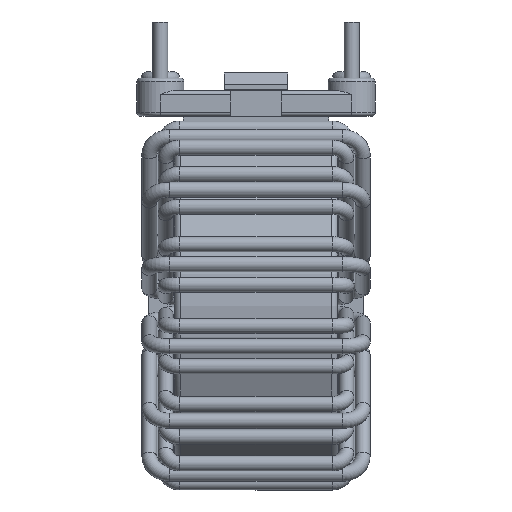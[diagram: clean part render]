
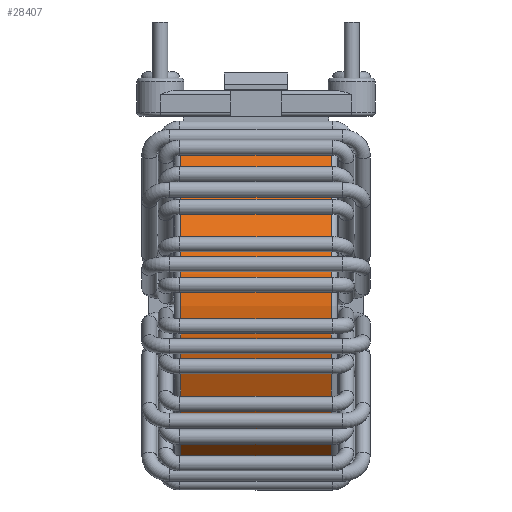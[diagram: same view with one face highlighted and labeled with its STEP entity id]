
A CAD part, left-side view. The second image highlights one B-rep face of the part: STEP entity #28407.
In plain terms, the highlighted cylindrical face has radius 14.2 mm (diameter 28.4 mm), a full revolution.
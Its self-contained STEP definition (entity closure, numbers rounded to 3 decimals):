
#1059=FACE_BOUND('',#8758,.T.);
#1060=FACE_BOUND('',#8759,.T.);
#3338=LINE('',#48750,#5333);
#3345=LINE('',#48767,#5340);
#3353=LINE('',#48785,#5348);
#3360=LINE('',#48800,#5355);
#3371=LINE('',#48849,#5366);
#5333=VECTOR('',#35758,10.);
#5340=VECTOR('',#35773,10.);
#5348=VECTOR('',#35789,10.);
#5355=VECTOR('',#35804,10.);
#5366=VECTOR('',#35877,14.2);
#6208=CYLINDRICAL_SURFACE('',#30569,14.2);
#7264=FACE_OUTER_BOUND('',#8757,.T.);
#8757=EDGE_LOOP('',(#23309,#23310,#23311,#23312,#23313));
#8758=EDGE_LOOP('',(#23314,#23315,#23316,#23317));
#8759=EDGE_LOOP('',(#23318,#23319,#23320,#23321));
#10202=CIRCLE('',#30552,14.2);
#10203=CIRCLE('',#30554,14.2);
#10204=CIRCLE('',#30556,14.2);
#10205=CIRCLE('',#30558,14.2);
#10210=CIRCLE('',#30567,14.2);
#10212=CIRCLE('',#30570,14.2);
#10213=CIRCLE('',#30571,14.2);
#12484=VERTEX_POINT('',#48743);
#12487=VERTEX_POINT('',#48748);
#12490=VERTEX_POINT('',#48760);
#12493=VERTEX_POINT('',#48765);
#12496=VERTEX_POINT('',#48778);
#12499=VERTEX_POINT('',#48783);
#12502=VERTEX_POINT('',#48796);
#12503=VERTEX_POINT('',#48798);
#12508=VERTEX_POINT('',#48842);
#12509=VERTEX_POINT('',#48846);
#12510=VERTEX_POINT('',#48847);
#16192=EDGE_CURVE('',#12487,#12484,#3338,.T.);
#16201=EDGE_CURVE('',#12493,#12490,#3345,.T.);
#16211=EDGE_CURVE('',#12499,#12496,#3353,.T.);
#16220=EDGE_CURVE('',#12503,#12502,#3360,.T.);
#16232=EDGE_CURVE('',#12503,#12496,#10202,.T.);
#16233=EDGE_CURVE('',#12499,#12502,#10203,.T.);
#16234=EDGE_CURVE('',#12493,#12484,#10204,.T.);
#16235=EDGE_CURVE('',#12487,#12490,#10205,.T.);
#16241=EDGE_CURVE('',#12508,#12508,#10210,.T.);
#16243=EDGE_CURVE('',#12509,#12510,#10212,.T.);
#16244=EDGE_CURVE('',#12509,#12508,#3371,.T.);
#16245=EDGE_CURVE('',#12510,#12509,#10213,.T.);
#23309=ORIENTED_EDGE('',*,*,#16243,.F.);
#23310=ORIENTED_EDGE('',*,*,#16244,.T.);
#23311=ORIENTED_EDGE('',*,*,#16241,.F.);
#23312=ORIENTED_EDGE('',*,*,#16244,.F.);
#23313=ORIENTED_EDGE('',*,*,#16245,.F.);
#23314=ORIENTED_EDGE('',*,*,#16235,.T.);
#23315=ORIENTED_EDGE('',*,*,#16201,.F.);
#23316=ORIENTED_EDGE('',*,*,#16234,.T.);
#23317=ORIENTED_EDGE('',*,*,#16192,.F.);
#23318=ORIENTED_EDGE('',*,*,#16233,.T.);
#23319=ORIENTED_EDGE('',*,*,#16220,.F.);
#23320=ORIENTED_EDGE('',*,*,#16232,.T.);
#23321=ORIENTED_EDGE('',*,*,#16211,.F.);
#28407=ADVANCED_FACE('',(#7264,#1059,#1060),#6208,.T.);
#30552=AXIS2_PLACEMENT_3D('',#48824,#35838,#35839);
#30554=AXIS2_PLACEMENT_3D('',#48826,#35842,#35843);
#30556=AXIS2_PLACEMENT_3D('',#48828,#35846,#35847);
#30558=AXIS2_PLACEMENT_3D('',#48830,#35850,#35851);
#30567=AXIS2_PLACEMENT_3D('',#48843,#35869,#35870);
#30569=AXIS2_PLACEMENT_3D('',#48845,#35873,#35874);
#30570=AXIS2_PLACEMENT_3D('',#48848,#35875,#35876);
#30571=AXIS2_PLACEMENT_3D('',#48850,#35878,#35879);
#35758=DIRECTION('',(0.,1.,0.));
#35773=DIRECTION('',(0.,-1.,0.));
#35789=DIRECTION('',(0.,1.,0.));
#35804=DIRECTION('',(0.,-1.,0.));
#35838=DIRECTION('center_axis',(0.,1.,0.));
#35839=DIRECTION('ref_axis',(0.,0.,
-1.));
#35842=DIRECTION('center_axis',(0.,-1.,0.));
#35843=DIRECTION('ref_axis',(0.,0.,
-1.));
#35846=DIRECTION('center_axis',(0.,1.,0.));
#35847=DIRECTION('ref_axis',(0.,0.,
-1.));
#35850=DIRECTION('center_axis',(0.,-1.,0.));
#35851=DIRECTION('ref_axis',(0.,0.,
-1.));
#35869=DIRECTION('center_axis',(0.,-1.,0.));
#35870=DIRECTION('ref_axis',(0.,0.,
-1.));
#35873=DIRECTION('center_axis',(0.,1.,0.));
#35874=DIRECTION('ref_axis',(0.,0.,
-1.));
#35875=DIRECTION('center_axis',(0.,1.,0.));
#35876=DIRECTION('ref_axis',(0.,0.,
-1.));
#35877=DIRECTION('',(0.,-1.,0.));
#35878=DIRECTION('center_axis',(0.,1.,0.));
#35879=DIRECTION('ref_axis',(0.,0.,
-1.));
#48743=CARTESIAN_POINT('',(4.83,5.7,-3.497));
#48748=CARTESIAN_POINT('',(4.83,-5.7,-3.497));
#48750=CARTESIAN_POINT('',(4.83,-5.2,-3.497));
#48760=CARTESIAN_POINT('',(2.898,-5.7,-2.949));
#48765=CARTESIAN_POINT('',(2.898,5.7,-2.949));
#48767=CARTESIAN_POINT('',(2.898,-5.2,-2.949));
#48778=CARTESIAN_POINT('',(-2.898,5.7,-2.949));
#48783=CARTESIAN_POINT('',(-2.898,-5.7,-2.949));
#48785=CARTESIAN_POINT('',(-2.898,-5.2,-2.949));
#48796=CARTESIAN_POINT('',(-4.83,-5.7,-3.497));
#48798=CARTESIAN_POINT('',(-4.83,5.7,-3.497));
#48800=CARTESIAN_POINT('',(-4.83,-5.2,-3.497));
#48824=CARTESIAN_POINT('Origin',(0.,5.7,
-16.85));
#48826=CARTESIAN_POINT('Origin',(0.,-5.7,
-16.85));
#48828=CARTESIAN_POINT('Origin',(0.,5.7,
-16.85));
#48830=CARTESIAN_POINT('Origin',(0.,-5.7,
-16.85));
#48842=CARTESIAN_POINT('',(0.,-5.9,-2.65));
#48843=CARTESIAN_POINT('Origin',(0.,-5.9,
-16.85));
#48845=CARTESIAN_POINT('Origin',(0.,-5.2,
-16.85));
#48846=CARTESIAN_POINT('',(0.,5.9,-2.65));
#48847=CARTESIAN_POINT('',(0.,5.9,-31.05));
#48848=CARTESIAN_POINT('Origin',(0.,5.9,
-16.85));
#48849=CARTESIAN_POINT('',(0.,-5.2,-2.65));
#48850=CARTESIAN_POINT('Origin',(0.,5.9,
-16.85));
